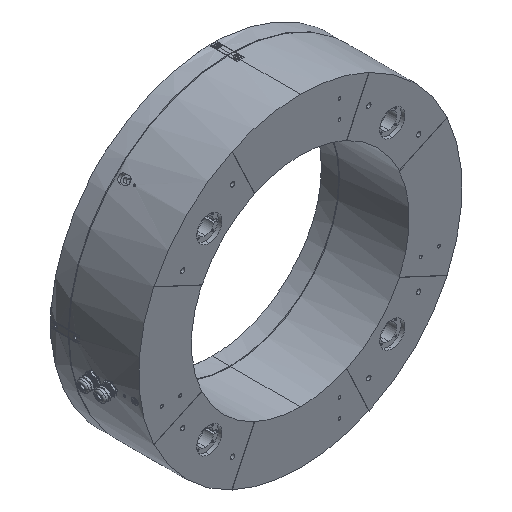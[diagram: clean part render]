
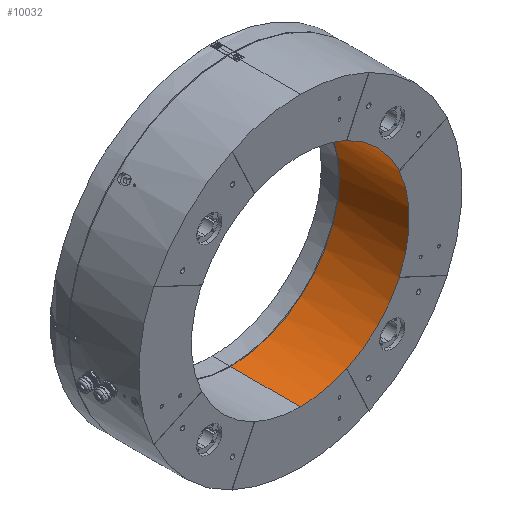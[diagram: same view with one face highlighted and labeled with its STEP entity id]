
A CAD part, isometric view. The second image highlights one B-rep face of the part: STEP entity #10032.
In plain terms, the highlighted cylindrical face has radius 160 mm (diameter 320 mm), a partial arc.
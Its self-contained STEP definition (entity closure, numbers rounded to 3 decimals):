
#387 = CARTESIAN_POINT ( 'NONE',  ( 145.009, 0.5, 67.619 ) ) ;
#491 = DIRECTION ( 'NONE',  ( 0., -1., 0. ) ) ;
#719 = DIRECTION ( 'NONE',  ( 0., 1., 0. ) ) ;
#1053 = LINE ( 'NONE', #46839, #39839 ) ;
#1406 = EDGE_CURVE ( 'NONE', #3354, #7542, #8989, .T. ) ;
#1543 = CARTESIAN_POINT ( 'NONE',  ( 0., 0.5, 0. ) ) ;
#1689 = LINE ( 'NONE', #52754, #53126 ) ;
#2348 = CARTESIAN_POINT ( 'NONE',  ( 0., 103., -160. ) ) ;
#3354 = VERTEX_POINT ( 'NONE', #23564 ) ;
#4109 = EDGE_CURVE ( 'NONE', #32839, #27063, #72879, .T. ) ;
#6060 = AXIS2_PLACEMENT_3D ( 'NONE', #45187, #16648, #33832 ) ;
#7038 = ORIENTED_EDGE ( 'NONE', *, *, #1406, .T. ) ;
#7068 = DIRECTION ( 'NONE',  ( 0., -1., 0. ) ) ;
#7311 = CARTESIAN_POINT ( 'NONE',  ( 0., 0.5, 0. ) ) ;
#7336 = CIRCLE ( 'NONE', #28858, 160. ) ;
#7542 = VERTEX_POINT ( 'NONE', #58001 ) ;
#8837 = ORIENTED_EDGE ( 'NONE', *, *, #45989, .T. ) ;
#8989 = LINE ( 'NONE', #24120, #35283 ) ;
#9445 = DIRECTION ( 'NONE',  ( 0., -1., 0. ) ) ;
#9927 = CARTESIAN_POINT ( 'NONE',  ( 145.009, 0.5, 67.619 ) ) ;
#10032 = ADVANCED_FACE ( 'NONE', ( #12487 ), #58263, .F. ) ;
#10513 = DIRECTION ( 'NONE',  ( 0., 1., 0. ) ) ;
#11195 = AXIS2_PLACEMENT_3D ( 'NONE', #16157, #10513, #39001 ) ;
#11611 = CARTESIAN_POINT ( 'NONE',  ( 0., 103., 0. ) ) ;
#11837 = CARTESIAN_POINT ( 'NONE',  ( 67.619, 0., 145.009 ) ) ;
#12191 = CARTESIAN_POINT ( 'NONE',  ( 145.009, 0., 67.619 ) ) ;
#12487 = FACE_OUTER_BOUND ( 'NONE', #58025, .T. ) ;
#12811 = VECTOR ( 'NONE', #73225, 1000. ) ;
#13042 = VERTEX_POINT ( 'NONE', #12191 ) ;
#13256 = DIRECTION ( 'NONE',  ( 0., -1., 0. ) ) ;
#14482 = LINE ( 'NONE', #9927, #32882 ) ;
#16157 = CARTESIAN_POINT ( 'NONE',  ( 0., 0., 0. ) ) ;
#16648 = DIRECTION ( 'NONE',  ( 0., 1., 0. ) ) ;
#17648 = VECTOR ( 'NONE', #9445, 1000. ) ;
#18039 = EDGE_CURVE ( 'NONE', #25596, #43642, #7336, .T. ) ;
#19224 = CARTESIAN_POINT ( 'NONE',  ( 0., 103., -160. ) ) ;
#22055 = EDGE_CURVE ( 'NONE', #25596, #13042, #14482, .T. ) ;
#22889 = EDGE_CURVE ( 'NONE', #3354, #27989, #24663, .T. ) ;
#22972 = DIRECTION ( 'NONE',  ( 0., 1., 0. ) ) ;
#23564 = CARTESIAN_POINT ( 'NONE',  ( 67.619, 0.5, -145.009 ) ) ;
#24120 = CARTESIAN_POINT ( 'NONE',  ( 67.619, 0.5, -145.009 ) ) ;
#24663 = CIRCLE ( 'NONE', #37830, 160. ) ;
#25596 = VERTEX_POINT ( 'NONE', #387 ) ;
#25905 = CARTESIAN_POINT ( 'NONE',  ( 0., 0.5, 160. ) ) ;
#26344 = ORIENTED_EDGE ( 'NONE', *, *, #18039, .F. ) ;
#27063 = VERTEX_POINT ( 'NONE', #19224 ) ;
#27989 = VERTEX_POINT ( 'NONE', #35328 ) ;
#28576 = CARTESIAN_POINT ( 'NONE',  ( 145.009, 0.5, -67.619 ) ) ;
#28858 = AXIS2_PLACEMENT_3D ( 'NONE', #1543, #69120, #41688 ) ;
#29303 = ORIENTED_EDGE ( 'NONE', *, *, #37863, .F. ) ;
#29794 = DIRECTION ( 'NONE',  ( 0., -1., 0. ) ) ;
#31739 = EDGE_CURVE ( 'NONE', #38518, #13042, #45985, .T. ) ;
#32399 = DIRECTION ( 'NONE',  ( 0., -1., 0. ) ) ;
#32839 = VERTEX_POINT ( 'NONE', #57704 ) ;
#32882 = VECTOR ( 'NONE', #32399, 1000. ) ;
#33832 = DIRECTION ( 'NONE',  ( 0., 0., -1. ) ) ;
#35283 = VECTOR ( 'NONE', #13256, 1000. ) ;
#35328 = CARTESIAN_POINT ( 'NONE',  ( 0., 0.5, -160. ) ) ;
#36005 = CARTESIAN_POINT ( 'NONE',  ( 145.009, 0., -67.619 ) ) ;
#37830 = AXIS2_PLACEMENT_3D ( 'NONE', #7311, #69605, #47090 ) ;
#37863 = EDGE_CURVE ( 'NONE', #39451, #7542, #51928, .T. ) ;
#38518 = VERTEX_POINT ( 'NONE', #11837 ) ;
#38818 = VERTEX_POINT ( 'NONE', #50813 ) ;
#39001 = DIRECTION ( 'NONE',  ( 0., 0., 1. ) ) ;
#39451 = VERTEX_POINT ( 'NONE', #36005 ) ;
#39839 = VECTOR ( 'NONE', #7068, 1000. ) ;
#40628 = CARTESIAN_POINT ( 'NONE',  ( 0., 103., 0. ) ) ;
#41688 = DIRECTION ( 'NONE',  ( 0., 0., -1. ) ) ;
#41801 = ORIENTED_EDGE ( 'NONE', *, *, #56476, .F. ) ;
#41880 = EDGE_CURVE ( 'NONE', #32839, #55712, #67199, .T. ) ;
#42225 = ORIENTED_EDGE ( 'NONE', *, *, #22889, .F. ) ;
#42849 = LINE ( 'NONE', #2348, #17648 ) ;
#43642 = VERTEX_POINT ( 'NONE', #28576 ) ;
#44385 = ORIENTED_EDGE ( 'NONE', *, *, #53196, .F. ) ;
#44996 = ORIENTED_EDGE ( 'NONE', *, *, #41880, .F. ) ;
#45187 = CARTESIAN_POINT ( 'NONE',  ( 0., 0.5, 0. ) ) ;
#45985 = CIRCLE ( 'NONE', #11195, 160. ) ;
#45989 = EDGE_CURVE ( 'NONE', #27063, #27989, #42849, .T. ) ;
#46285 = DIRECTION ( 'NONE',  ( 0., 0., 1. ) ) ;
#46527 = AXIS2_PLACEMENT_3D ( 'NONE', #11611, #719, #69409 ) ;
#46839 = CARTESIAN_POINT ( 'NONE',  ( 145.009, 0.5, -67.619 ) ) ;
#47074 = ORIENTED_EDGE ( 'NONE', *, *, #66737, .F. ) ;
#47090 = DIRECTION ( 'NONE',  ( 0., 0., -1. ) ) ;
#48931 = AXIS2_PLACEMENT_3D ( 'NONE', #40628, #491, #51923 ) ;
#50386 = ORIENTED_EDGE ( 'NONE', *, *, #22055, .T. ) ;
#50813 = CARTESIAN_POINT ( 'NONE',  ( 67.619, 0.5, 145.009 ) ) ;
#51923 = DIRECTION ( 'NONE',  ( 0., 0., -1. ) ) ;
#51928 = CIRCLE ( 'NONE', #66327, 160. ) ;
#52754 = CARTESIAN_POINT ( 'NONE',  ( 67.619, 0.5, 145.009 ) ) ;
#53126 = VECTOR ( 'NONE', #29794, 1000. ) ;
#53196 = EDGE_CURVE ( 'NONE', #38818, #38518, #1689, .T. ) ;
#53999 = CIRCLE ( 'NONE', #6060, 160. ) ;
#55712 = VERTEX_POINT ( 'NONE', #25905 ) ;
#56476 = EDGE_CURVE ( 'NONE', #43642, #39451, #1053, .T. ) ;
#57184 = ORIENTED_EDGE ( 'NONE', *, *, #31739, .F. ) ;
#57704 = CARTESIAN_POINT ( 'NONE',  ( 0., 103., 160. ) ) ;
#58001 = CARTESIAN_POINT ( 'NONE',  ( 67.619, 0., -145.009 ) ) ;
#58025 = EDGE_LOOP ( 'NONE', ( #44996, #69984, #8837, #42225, #7038, #29303, #41801, #26344, #50386, #57184, #44385, #47074 ) ) ;
#58263 = CYLINDRICAL_SURFACE ( 'NONE', #48931, 160. ) ;
#66327 = AXIS2_PLACEMENT_3D ( 'NONE', #71294, #22972, #46285 ) ;
#66737 = EDGE_CURVE ( 'NONE', #55712, #38818, #53999, .T. ) ;
#66839 = CARTESIAN_POINT ( 'NONE',  ( 0., 103., 160. ) ) ;
#67199 = LINE ( 'NONE', #66839, #12811 ) ;
#69120 = DIRECTION ( 'NONE',  ( 0., 1., 0. ) ) ;
#69409 = DIRECTION ( 'NONE',  ( 0., 0., 1. ) ) ;
#69605 = DIRECTION ( 'NONE',  ( 0., 1., 0. ) ) ;
#69984 = ORIENTED_EDGE ( 'NONE', *, *, #4109, .T. ) ;
#71294 = CARTESIAN_POINT ( 'NONE',  ( 0., 0., 0. ) ) ;
#72879 = CIRCLE ( 'NONE', #46527, 160. ) ;
#73225 = DIRECTION ( 'NONE',  ( 0., -1., 0. ) ) ;
